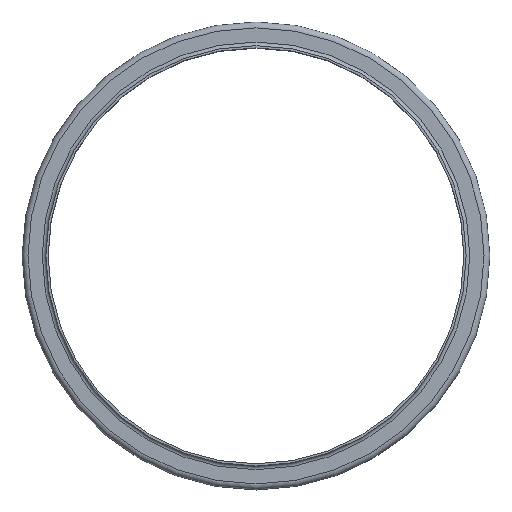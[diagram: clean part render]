
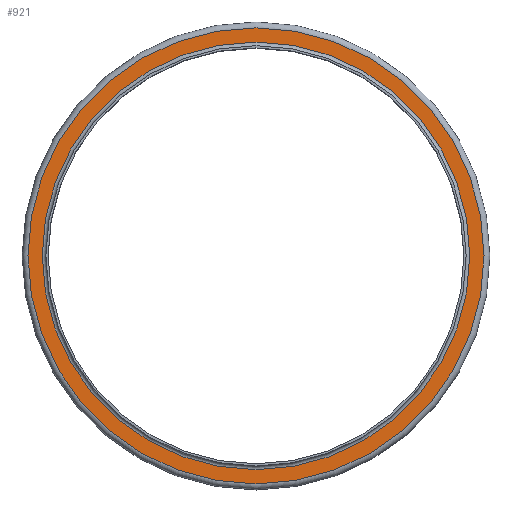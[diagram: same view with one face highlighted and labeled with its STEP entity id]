
A CAD part, top view. The second image highlights one B-rep face of the part: STEP entity #921.
In plain terms, the highlighted planar face has unit normal (0, 0, 1).
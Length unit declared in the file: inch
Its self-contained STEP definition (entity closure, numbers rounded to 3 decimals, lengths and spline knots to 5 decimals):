
#98=FACE_BOUND('',#272,.T.);
#165=FACE_OUTER_BOUND('',#271,.T.);
#271=EDGE_LOOP('',(#772));
#272=EDGE_LOOP('',(#773));
#385=CIRCLE('',#1110,11.31);
#386=CIRCLE('',#1112,12.065);
#466=VERTEX_POINT('',#1734);
#467=VERTEX_POINT('',#1738);
#571=EDGE_CURVE('',#466,#466,#385,.T.);
#572=EDGE_CURVE('',#467,#467,#386,.T.);
#772=ORIENTED_EDGE('',*,*,#572,.F.);
#773=ORIENTED_EDGE('',*,*,#571,.T.);
#854=PLANE('',#1111);
#921=ADVANCED_FACE('',(#165,#98),#854,.T.);
#1110=AXIS2_PLACEMENT_3D('',#1736,#1446,#1447);
#1111=AXIS2_PLACEMENT_3D('',#1737,#1448,#1449);
#1112=AXIS2_PLACEMENT_3D('',#1739,#1450,#1451);
#1446=DIRECTION('center_axis',(0.,0.,-1.));
#1447=DIRECTION('ref_axis',(1.,0.,0.));
#1448=DIRECTION('center_axis',(0.,0.,1.));
#1449=DIRECTION('ref_axis',(1.,0.,0.));
#1450=DIRECTION('center_axis',(0.,0.,-1.));
#1451=DIRECTION('ref_axis',(1.,0.,0.));
#1734=CARTESIAN_POINT('',(11.31,0.,-0.19));
#1736=CARTESIAN_POINT('Origin',(0.,0.,-0.19));
#1737=CARTESIAN_POINT('Origin',(0.,12.065,-0.19));
#1738=CARTESIAN_POINT('',(12.065,0.,-0.19));
#1739=CARTESIAN_POINT('Origin',(0.,0.,-0.19));
